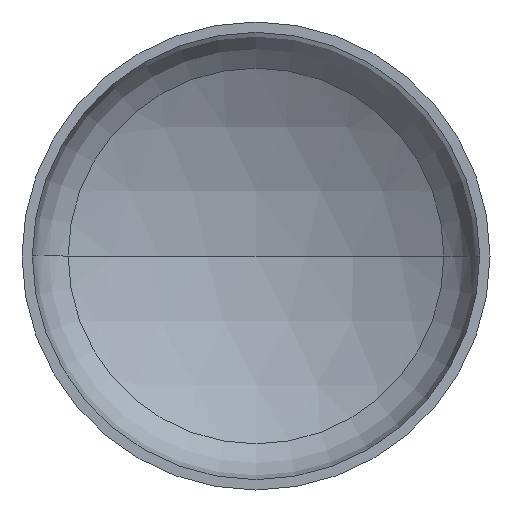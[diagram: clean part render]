
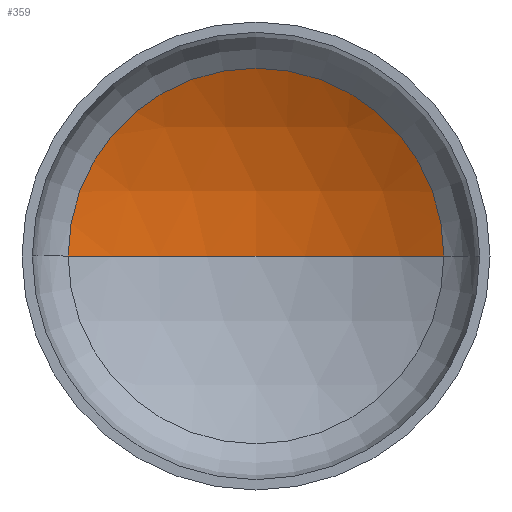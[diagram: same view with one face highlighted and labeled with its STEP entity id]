
A CAD part, front view. The second image highlights one B-rep face of the part: STEP entity #359.
In plain terms, the highlighted spherical face has radius 1120 mm.
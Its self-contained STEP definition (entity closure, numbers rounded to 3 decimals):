
#5 = AXIS2_PLACEMENT_3D ( 'NONE', #301, #371, #233 ) ;
#6 = FACE_OUTER_BOUND ( 'NONE', #158, .T. ) ;
#18 = DIRECTION ( 'NONE',  ( 0., 0., 1. ) ) ;
#23 = CARTESIAN_POINT ( 'NONE',  ( 0., 285.989, 0. ) ) ;
#32 = AXIS2_PLACEMENT_3D ( 'NONE', #370, #18, #270 ) ;
#35 = AXIS2_PLACEMENT_3D ( 'NONE', #123, #312, #335 ) ;
#38 = ORIENTED_EDGE ( 'NONE', *, *, #181, .F. ) ;
#41 = AXIS2_PLACEMENT_3D ( 'NONE', #23, #271, #293 ) ;
#77 = ORIENTED_EDGE ( 'NONE', *, *, #153, .T. ) ;
#106 = VERTEX_POINT ( 'NONE', #367 ) ;
#123 = CARTESIAN_POINT ( 'NONE',  ( 0., -682.885, 0. ) ) ;
#141 = CIRCLE ( 'NONE', #41, 561.856 ) ;
#149 = VERTEX_POINT ( 'NONE', #321 ) ;
#153 = EDGE_CURVE ( 'NONE', #149, #180, #141, .T. ) ;
#158 = EDGE_LOOP ( 'NONE', ( #38, #162, #77 ) ) ;
#160 = EDGE_CURVE ( 'NONE', #106, #149, #265, .T. ) ;
#162 = ORIENTED_EDGE ( 'NONE', *, *, #160, .T. ) ;
#180 = VERTEX_POINT ( 'NONE', #411 ) ;
#181 = EDGE_CURVE ( 'NONE', #106, #180, #337, .T. ) ;
#233 = DIRECTION ( 'NONE',  ( -1., 0., 0. ) ) ;
#265 = CIRCLE ( 'NONE', #35, 1120. ) ;
#270 = DIRECTION ( 'NONE',  ( 1., 0., 0. ) ) ;
#271 = DIRECTION ( 'NONE',  ( 0., -1., 0. ) ) ;
#292 = SPHERICAL_SURFACE ( 'NONE', #5, 1120. ) ;
#293 = DIRECTION ( 'NONE',  ( 1., 0., 0. ) ) ;
#301 = CARTESIAN_POINT ( 'NONE',  ( 0., -682.885, 0. ) ) ;
#312 = DIRECTION ( 'NONE',  ( 0., 0., -1. ) ) ;
#321 = CARTESIAN_POINT ( 'NONE',  ( 561.856, 285.989, 0. ) ) ;
#335 = DIRECTION ( 'NONE',  ( -1., 0., 0. ) ) ;
#337 = CIRCLE ( 'NONE', #32, 1120. ) ;
#359 = ADVANCED_FACE ( 'NONE', ( #6 ), #292, .F. ) ;
#367 = CARTESIAN_POINT ( 'NONE',  ( 0., 437.115, 0. ) ) ;
#370 = CARTESIAN_POINT ( 'NONE',  ( 0., -682.885, 0. ) ) ;
#371 = DIRECTION ( 'NONE',  ( 0., 0., -1. ) ) ;
#411 = CARTESIAN_POINT ( 'NONE',  ( -561.856, 285.989, 0. ) ) ;
